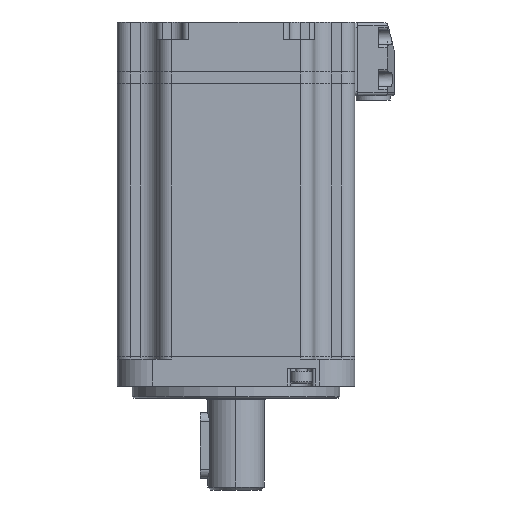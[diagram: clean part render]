
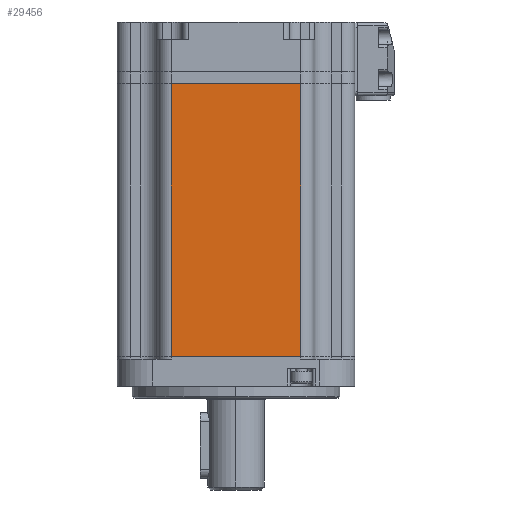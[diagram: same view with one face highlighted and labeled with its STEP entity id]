
A CAD part, left-side view. The second image highlights one B-rep face of the part: STEP entity #29456.
In plain terms, the highlighted planar face has unit normal (-1, 0, 0).
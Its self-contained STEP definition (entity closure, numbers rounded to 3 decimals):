
#1274 = VECTOR ( 'NONE', #29893, 1000. ) ;
#5424 = VERTEX_POINT ( 'NONE', #19465 ) ;
#5810 = CARTESIAN_POINT ( 'NONE',  ( -35.928, -29.124, 10. ) ) ;
#6863 = LINE ( 'NONE', #13942, #13976 ) ;
#7296 = ORIENTED_EDGE ( 'NONE', *, *, #17136, .F. ) ;
#8432 = LINE ( 'NONE', #5810, #1274 ) ;
#8529 = VERTEX_POINT ( 'NONE', #13788 ) ;
#10007 = VERTEX_POINT ( 'NONE', #16480 ) ;
#11533 = PLANE ( 'NONE',  #20027 ) ;
#12251 = VECTOR ( 'NONE', #22019, 1000. ) ;
#13788 = CARTESIAN_POINT ( 'NONE',  ( -35.928, 18.876, 101.9 ) ) ;
#13942 = CARTESIAN_POINT ( 'NONE',  ( -35.928, -29.124, 101.9 ) ) ;
#13976 = VECTOR ( 'NONE', #29962, 1000. ) ;
#14104 = EDGE_CURVE ( 'NONE', #5424, #10007, #28334, .T. ) ;
#14157 = DIRECTION ( 'NONE',  ( 0., 0., -1. ) ) ;
#15074 = EDGE_LOOP ( 'NONE', ( #21625, #21597, #7296, #17154 ) ) ;
#16480 = CARTESIAN_POINT ( 'NONE',  ( -35.928, -24.624, 101.9 ) ) ;
#16634 = CARTESIAN_POINT ( 'NONE',  ( -35.928, 18.876, 101.9 ) ) ;
#17136 = EDGE_CURVE ( 'NONE', #8529, #10007, #6863, .T. ) ;
#17154 = ORIENTED_EDGE ( 'NONE', *, *, #18160, .T. ) ;
#17797 = CARTESIAN_POINT ( 'NONE',  ( -35.928, -24.624, 101.9 ) ) ;
#18160 = EDGE_CURVE ( 'NONE', #8529, #26050, #22671, .T. ) ;
#18998 = CARTESIAN_POINT ( 'NONE',  ( -35.928, 18.876, 10. ) ) ;
#19465 = CARTESIAN_POINT ( 'NONE',  ( -35.928, -24.624, 10. ) ) ;
#20027 = AXIS2_PLACEMENT_3D ( 'NONE', #22094, #30191, #14157 ) ;
#21224 = VECTOR ( 'NONE', #28595, 1000. ) ;
#21597 = ORIENTED_EDGE ( 'NONE', *, *, #14104, .T. ) ;
#21625 = ORIENTED_EDGE ( 'NONE', *, *, #33788, .T. ) ;
#22019 = DIRECTION ( 'NONE',  ( 0., 0., -1. ) ) ;
#22094 = CARTESIAN_POINT ( 'NONE',  ( -35.928, -29.124, 101.9 ) ) ;
#22671 = LINE ( 'NONE', #16634, #12251 ) ;
#26050 = VERTEX_POINT ( 'NONE', #18998 ) ;
#28334 = LINE ( 'NONE', #17797, #21224 ) ;
#28595 = DIRECTION ( 'NONE',  ( 0., 0., 1. ) ) ;
#29456 = ADVANCED_FACE ( 'NONE', ( #33427 ), #11533, .F. ) ;
#29893 = DIRECTION ( 'NONE',  ( 0., -1., 0. ) ) ;
#29962 = DIRECTION ( 'NONE',  ( 0., -1., 0. ) ) ;
#30191 = DIRECTION ( 'NONE',  ( 1., 0., 0. ) ) ;
#33427 = FACE_OUTER_BOUND ( 'NONE', #15074, .T. ) ;
#33788 = EDGE_CURVE ( 'NONE', #26050, #5424, #8432, .T. ) ;
